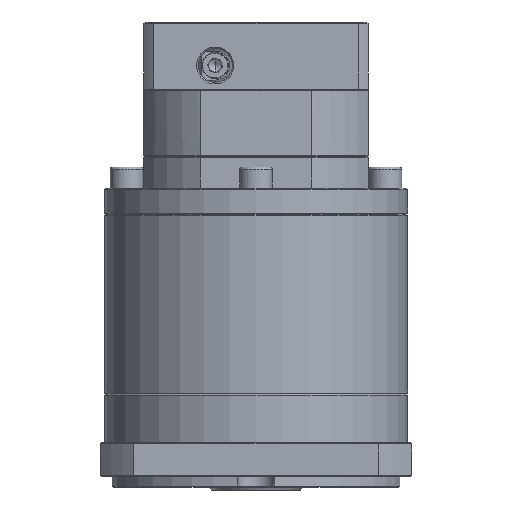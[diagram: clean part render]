
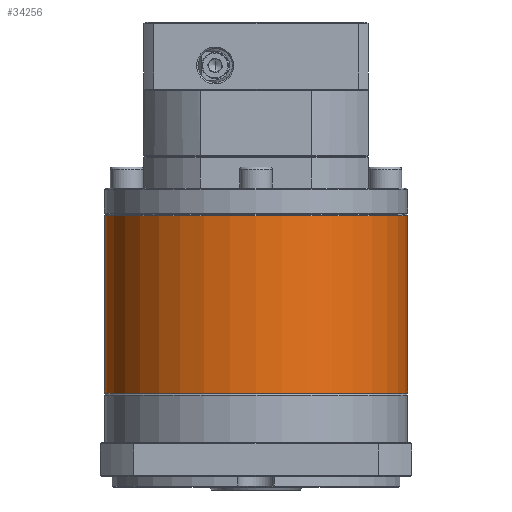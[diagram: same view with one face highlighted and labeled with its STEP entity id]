
A CAD part, front view. The second image highlights one B-rep face of the part: STEP entity #34256.
In plain terms, the highlighted cylindrical face has radius 57.5 mm (diameter 115 mm), a partial arc.
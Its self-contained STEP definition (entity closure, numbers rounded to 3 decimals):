
#9957 = CIRCLE ( 'NONE', #20444, 57.5 ) ;
#11257 = EDGE_CURVE ( 'NONE', #86040, #72578, #78100, .T. ) ;
#13855 = LINE ( 'NONE', #31468, #27406 ) ;
#20223 = CARTESIAN_POINT ( 'NONE',  ( 38.345, -9.944, 132.291 ) ) ;
#20444 = AXIS2_PLACEMENT_3D ( 'NONE', #103810, #55128, #56387 ) ;
#21631 = EDGE_CURVE ( 'NONE', #38136, #96740, #104456, .T. ) ;
#27406 = VECTOR ( 'NONE', #99106, 1000. ) ;
#29068 = CARTESIAN_POINT ( 'NONE',  ( 38.345, -9.944, 200.002 ) ) ;
#31468 = CARTESIAN_POINT ( 'NONE',  ( -76.655, -9.944, 200.002 ) ) ;
#34256 = ADVANCED_FACE ( 'NONE', ( #62251 ), #35092, .T. ) ;
#35092 = CYLINDRICAL_SURFACE ( 'NONE', #67227, 57.5 ) ;
#38136 = VERTEX_POINT ( 'NONE', #106399 ) ;
#38159 = EDGE_CURVE ( 'NONE', #38136, #72578, #48200, .T. ) ;
#41683 = CARTESIAN_POINT ( 'NONE',  ( -76.655, -9.944, 199.502 ) ) ;
#45378 = AXIS2_PLACEMENT_3D ( 'NONE', #114094, #95963, #65501 ) ;
#48200 = LINE ( 'NONE', #29068, #60350 ) ;
#51110 = AXIS2_PLACEMENT_3D ( 'NONE', #125138, #104988, #76582 ) ;
#55128 = DIRECTION ( 'NONE',  ( 0., 0., -1. ) ) ;
#56387 = DIRECTION ( 'NONE',  ( -1., 0., 0. ) ) ;
#59954 = ORIENTED_EDGE ( 'NONE', *, *, #21631, .T. ) ;
#60350 = VECTOR ( 'NONE', #108461, 1000. ) ;
#62251 = FACE_OUTER_BOUND ( 'NONE', #89060, .T. ) ;
#63621 = EDGE_CURVE ( 'NONE', #98431, #86040, #13855, .T. ) ;
#65501 = DIRECTION ( 'NONE',  ( -1., 0., 0. ) ) ;
#67227 = AXIS2_PLACEMENT_3D ( 'NONE', #117322, #99215, #120502 ) ;
#72578 = VERTEX_POINT ( 'NONE', #20223 ) ;
#75751 = CARTESIAN_POINT ( 'NONE',  ( -19.155, -67.444, 199.502 ) ) ;
#76582 = DIRECTION ( 'NONE',  ( -1., 0., 0. ) ) ;
#78100 = CIRCLE ( 'NONE', #51110, 57.5 ) ;
#78263 = EDGE_CURVE ( 'NONE', #96740, #98431, #9957, .T. ) ;
#86040 = VERTEX_POINT ( 'NONE', #87143 ) ;
#87143 = CARTESIAN_POINT ( 'NONE',  ( -76.655, -9.944, 132.291 ) ) ;
#89060 = EDGE_LOOP ( 'NONE', ( #108392, #59954, #119641, #122515, #97600 ) ) ;
#95963 = DIRECTION ( 'NONE',  ( 0., 0., -1. ) ) ;
#96740 = VERTEX_POINT ( 'NONE', #75751 ) ;
#97600 = ORIENTED_EDGE ( 'NONE', *, *, #11257, .T. ) ;
#98431 = VERTEX_POINT ( 'NONE', #41683 ) ;
#99106 = DIRECTION ( 'NONE',  ( 0., 0., -1. ) ) ;
#99215 = DIRECTION ( 'NONE',  ( 0., 0., -1. ) ) ;
#103810 = CARTESIAN_POINT ( 'NONE',  ( -19.155, -9.944, 199.502 ) ) ;
#104456 = CIRCLE ( 'NONE', #45378, 57.5 ) ;
#104988 = DIRECTION ( 'NONE',  ( 0., 0., 1. ) ) ;
#106399 = CARTESIAN_POINT ( 'NONE',  ( 38.345, -9.944, 199.502 ) ) ;
#108392 = ORIENTED_EDGE ( 'NONE', *, *, #38159, .F. ) ;
#108461 = DIRECTION ( 'NONE',  ( 0., 0., -1. ) ) ;
#114094 = CARTESIAN_POINT ( 'NONE',  ( -19.155, -9.944, 199.502 ) ) ;
#117322 = CARTESIAN_POINT ( 'NONE',  ( -19.155, -9.944, 200.002 ) ) ;
#119641 = ORIENTED_EDGE ( 'NONE', *, *, #78263, .T. ) ;
#120502 = DIRECTION ( 'NONE',  ( -1., 0., 0. ) ) ;
#122515 = ORIENTED_EDGE ( 'NONE', *, *, #63621, .T. ) ;
#125138 = CARTESIAN_POINT ( 'NONE',  ( -19.155, -9.944, 132.291 ) ) ;
